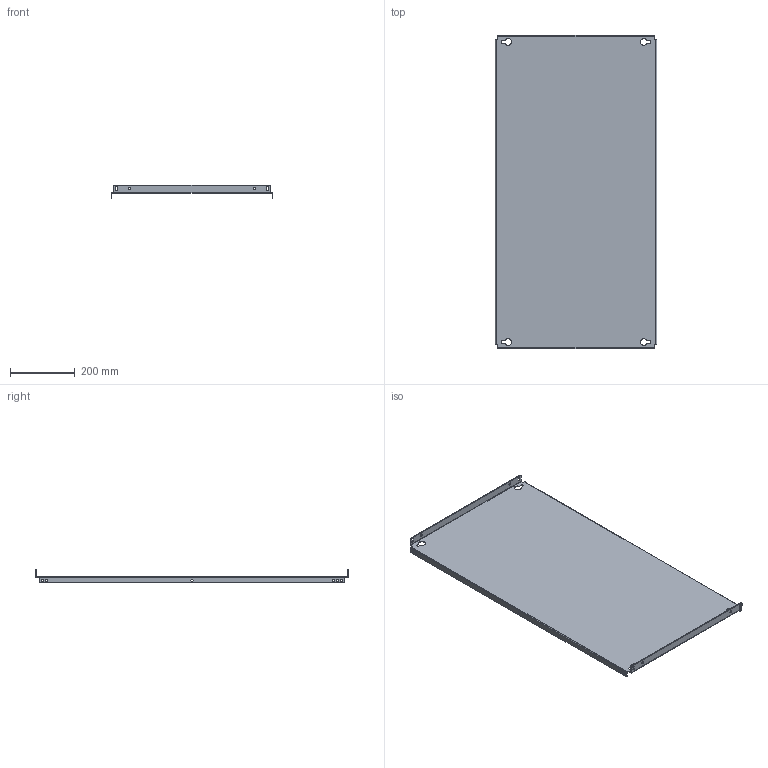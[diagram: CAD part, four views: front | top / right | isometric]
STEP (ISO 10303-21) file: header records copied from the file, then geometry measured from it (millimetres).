
FILE_DESCRIPTION (( 'STEP AP203' ), '1' );
FILE_NAME ('R5PPS10006.STEP', '2021-12-20T06:54:34', ( '' ), ( '' ), 'SwSTEP 2.0', 'SolidWorks 2020', '' );
FILE_SCHEMA (( 'CONFIG_CONTROL_DESIGN' ));
Length unit declared in the file: millimetre
Products named in the file (1): R5PPS10006
Bounding box: 500 x 969 x 43 mm (x, y, z)
Volume: 1069507.8 mm3; surface area: 1077386.6 mm2
Topology: 1 solids, 1 shells, 140 faces, 382 edges, 244 vertices
Faces by surface type: cylinder 82, plane 58
Entity records: 4627 total; most frequent: DIRECTION 828, CARTESIAN_POINT 767, ORIENTED_EDGE 764, EDGE_CURVE 382, AXIS2_PLACEMENT_3D 305, VERTEX_POINT 244, LINE 218, VECTOR 218
